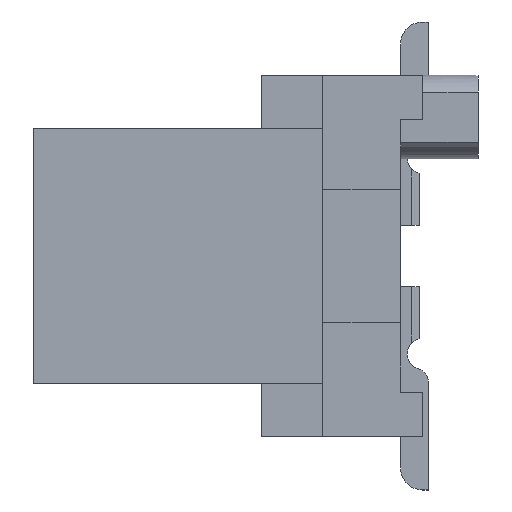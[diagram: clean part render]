
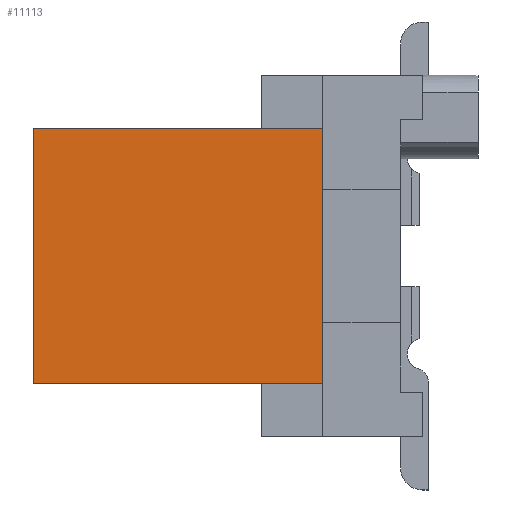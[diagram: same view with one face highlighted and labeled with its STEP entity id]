
A CAD part, left-side view. The second image highlights one B-rep face of the part: STEP entity #11113.
In plain terms, the highlighted planar face has unit normal (-1, 0, 0).
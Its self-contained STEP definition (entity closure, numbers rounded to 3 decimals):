
#363 = ORIENTED_EDGE ( 'NONE', *, *, #6744, .F. ) ;
#578 = LINE ( 'NONE', #4069, #5333 ) ;
#1210 = CARTESIAN_POINT ( 'NONE',  ( 1.944, -1.079, -2.775 ) ) ;
#1286 = DIRECTION ( 'NONE',  ( 0., 0., -1. ) ) ;
#1521 = CARTESIAN_POINT ( 'NONE',  ( 1.944, -0.529, -2.775 ) ) ;
#1606 = VERTEX_POINT ( 'NONE', #9297 ) ;
#1654 = LINE ( 'NONE', #13082, #13642 ) ;
#1670 = PLANE ( 'NONE',  #8938 ) ;
#2757 = DIRECTION ( 'NONE',  ( 0., 0., 1. ) ) ;
#2906 = FACE_OUTER_BOUND ( 'NONE', #9733, .T. ) ;
#4069 = CARTESIAN_POINT ( 'NONE',  ( 1.944, 1.521, -2.775 ) ) ;
#4086 = VERTEX_POINT ( 'NONE', #10289 ) ;
#4530 = ORIENTED_EDGE ( 'NONE', *, *, #12243, .F. ) ;
#5333 = VECTOR ( 'NONE', #14502, 1000. ) ;
#6234 = DIRECTION ( 'NONE',  ( -1., 0., 0. ) ) ;
#6439 = LINE ( 'NONE', #7901, #8949 ) ;
#6744 = EDGE_CURVE ( 'NONE', #12407, #8212, #11870, .T. ) ;
#7601 = DIRECTION ( 'NONE',  ( 0., 1., 0. ) ) ;
#7901 = CARTESIAN_POINT ( 'NONE',  ( 1.944, -0.529, -2.775 ) ) ;
#7922 = CARTESIAN_POINT ( 'NONE',  ( 1.944, -1.079, -0.475 ) ) ;
#7984 = VECTOR ( 'NONE', #1286, 1000. ) ;
#8212 = VERTEX_POINT ( 'NONE', #10158 ) ;
#8938 = AXIS2_PLACEMENT_3D ( 'NONE', #1521, #6234, #2757 ) ;
#8949 = VECTOR ( 'NONE', #7601, 1000. ) ;
#9297 = CARTESIAN_POINT ( 'NONE',  ( 1.944, 1.521, -0.475 ) ) ;
#9733 = EDGE_LOOP ( 'NONE', ( #4530, #13179, #363, #12346 ) ) ;
#10158 = CARTESIAN_POINT ( 'NONE',  ( 1.944, -1.079, -2.775 ) ) ;
#10289 = CARTESIAN_POINT ( 'NONE',  ( 1.944, 1.521, -2.775 ) ) ;
#11113 = ADVANCED_FACE ( 'NONE', ( #2906 ), #1670, .T. ) ;
#11523 = EDGE_CURVE ( 'NONE', #12407, #1606, #1654, .T. ) ;
#11648 = EDGE_CURVE ( 'NONE', #8212, #4086, #6439, .T. ) ;
#11870 = LINE ( 'NONE', #1210, #7984 ) ;
#12243 = EDGE_CURVE ( 'NONE', #4086, #1606, #578, .T. ) ;
#12346 = ORIENTED_EDGE ( 'NONE', *, *, #11523, .T. ) ;
#12407 = VERTEX_POINT ( 'NONE', #7922 ) ;
#13082 = CARTESIAN_POINT ( 'NONE',  ( 1.944, -0.529, -0.475 ) ) ;
#13179 = ORIENTED_EDGE ( 'NONE', *, *, #11648, .F. ) ;
#13642 = VECTOR ( 'NONE', #14481, 1000. ) ;
#14481 = DIRECTION ( 'NONE',  ( 0., 1., 0. ) ) ;
#14502 = DIRECTION ( 'NONE',  ( 0., 0., 1. ) ) ;
